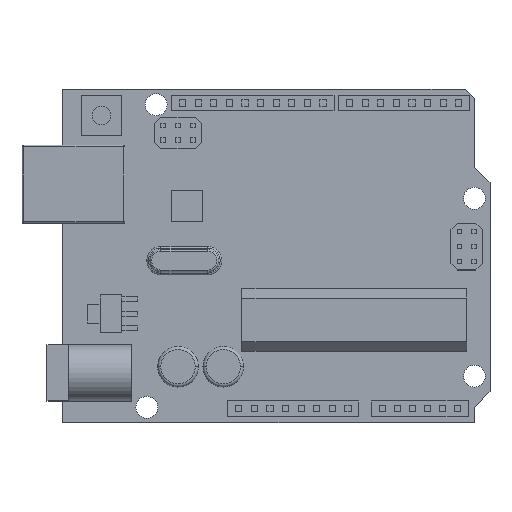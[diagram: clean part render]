
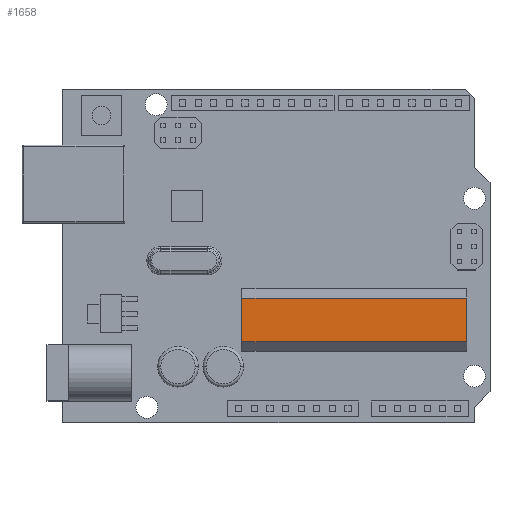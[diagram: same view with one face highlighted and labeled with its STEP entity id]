
A CAD part, top view. The second image highlights one B-rep face of the part: STEP entity #1658.
In plain terms, the highlighted planar face has unit normal (0, 0, 1).
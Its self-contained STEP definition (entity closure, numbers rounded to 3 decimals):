
#441 = DIRECTION ( 'NONE',  ( 0., 0., -1. ) ) ;
#854 = ORIENTED_EDGE ( 'NONE', *, *, #2450, .F. ) ;
#979 = CARTESIAN_POINT ( 'NONE',  ( -3.75, 20., 9.6 ) ) ;
#1281 = EDGE_LOOP ( 'NONE', ( #854, #4391, #5628, #7169 ) ) ;
#1658 = ADVANCED_FACE ( 'NONE', ( #12277 ), #7363, .F. ) ;
#1704 = CARTESIAN_POINT ( 'NONE',  ( 0., 0., 9.6 ) ) ;
#2450 = EDGE_CURVE ( 'NONE', #6007, #8067, #3432, .T. ) ;
#2469 = LINE ( 'NONE', #4265, #2569 ) ;
#2523 = CARTESIAN_POINT ( 'NONE',  ( -39.75, 13., 9.6 ) ) ;
#2527 = DIRECTION ( 'NONE',  ( 0., 1., 0. ) ) ;
#2569 = VECTOR ( 'NONE', #2527, 1000. ) ;
#3432 = LINE ( 'NONE', #6308, #11389 ) ;
#4014 = CARTESIAN_POINT ( 'NONE',  ( -3.75, 13., 9.6 ) ) ;
#4135 = VECTOR ( 'NONE', #7820, 1000. ) ;
#4265 = CARTESIAN_POINT ( 'NONE',  ( -39.75, 11.5, 9.6 ) ) ;
#4391 = ORIENTED_EDGE ( 'NONE', *, *, #11292, .T. ) ;
#4430 = DIRECTION ( 'NONE',  ( 0., -1., 0. ) ) ;
#4684 = VERTEX_POINT ( 'NONE', #10290 ) ;
#5375 = DIRECTION ( 'NONE',  ( -1., 0., 0. ) ) ;
#5628 = ORIENTED_EDGE ( 'NONE', *, *, #9024, .F. ) ;
#6007 = VERTEX_POINT ( 'NONE', #979 ) ;
#6306 = VERTEX_POINT ( 'NONE', #2523 ) ;
#6308 = CARTESIAN_POINT ( 'NONE',  ( -3.75, 21.5, 9.6 ) ) ;
#6668 = CARTESIAN_POINT ( 'NONE',  ( -3.75, 13., 9.6 ) ) ;
#7123 = LINE ( 'NONE', #8363, #7186 ) ;
#7169 = ORIENTED_EDGE ( 'NONE', *, *, #9000, .T. ) ;
#7186 = VECTOR ( 'NONE', #5375, 1000. ) ;
#7363 = PLANE ( 'NONE',  #11342 ) ;
#7820 = DIRECTION ( 'NONE',  ( 1., 0., 0. ) ) ;
#8067 = VERTEX_POINT ( 'NONE', #6668 ) ;
#8363 = CARTESIAN_POINT ( 'NONE',  ( -39.75, 20., 9.6 ) ) ;
#9000 = EDGE_CURVE ( 'NONE', #6306, #8067, #10813, .T. ) ;
#9024 = EDGE_CURVE ( 'NONE', #6306, #4684, #2469, .T. ) ;
#10130 = DIRECTION ( 'NONE',  ( -1., 0., 0. ) ) ;
#10290 = CARTESIAN_POINT ( 'NONE',  ( -39.75, 20., 9.6 ) ) ;
#10813 = LINE ( 'NONE', #4014, #4135 ) ;
#11292 = EDGE_CURVE ( 'NONE', #6007, #4684, #7123, .T. ) ;
#11342 = AXIS2_PLACEMENT_3D ( 'NONE', #1704, #441, #10130 ) ;
#11389 = VECTOR ( 'NONE', #4430, 1000. ) ;
#12277 = FACE_OUTER_BOUND ( 'NONE', #1281, .T. ) ;
